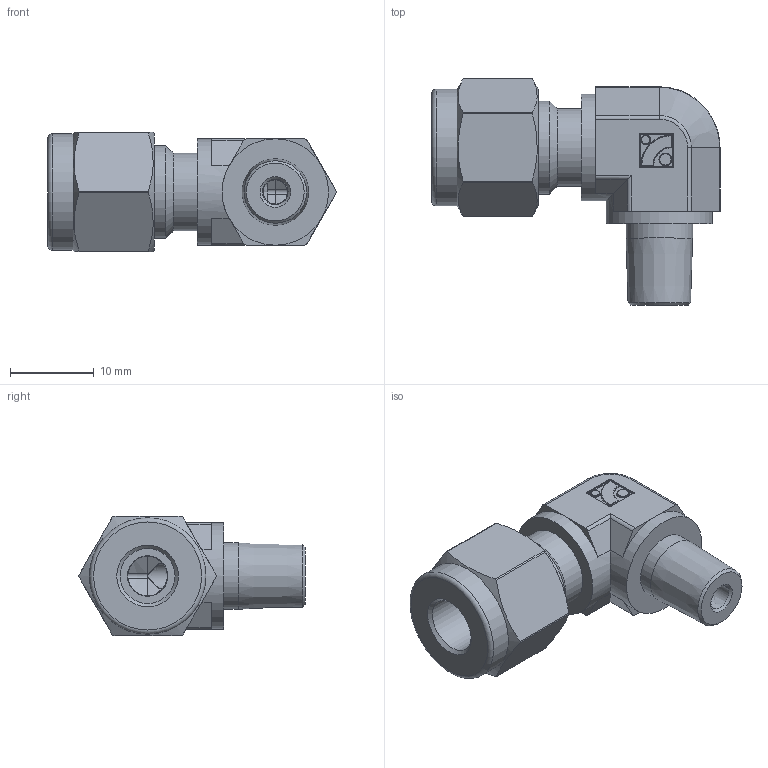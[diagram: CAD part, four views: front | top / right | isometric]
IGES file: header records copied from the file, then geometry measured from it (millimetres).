
Global section: file name: No Iges File Name specified; native system: Autodesk Inventor 2012; preprocessor: AutoDesk Inventor Iges Exporter R2012; author: 硅己绕,,1; organization: 1; date: 20150702.173921; units: millimetre
Bounding box: 34.4 x 27 x 14.3 mm (x, y, z)
Volume: 4619.5 mm3; surface area: 2829.5 mm2
Topology: 1 solids, 1 shells, 130 faces, 291 edges, 168 vertices
Faces by surface type: plane 43, cylinder 35, revolution 29, torus 12, cone 7, sphere 4
Full cylindrical faces by diameter (mm): 1.08 x1, 1.44 x1, 7.94 x1, 9.3 x1, 11.112 x1, 12.7 x2, 13.9 x1
